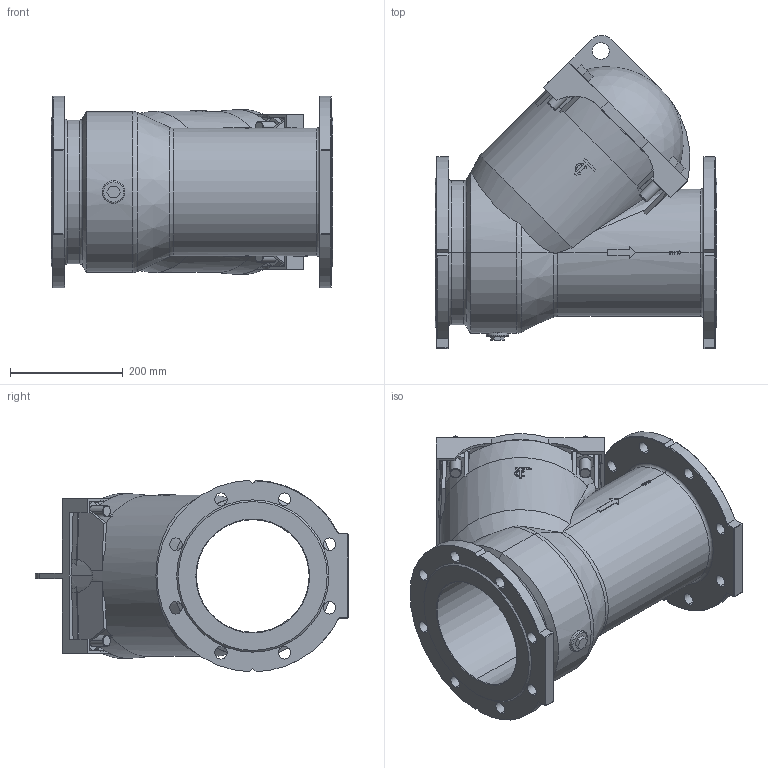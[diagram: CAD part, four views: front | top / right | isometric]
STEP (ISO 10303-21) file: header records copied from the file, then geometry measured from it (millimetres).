
FILE_DESCRIPTION (( 'STEP AP203' ), '1' );
FILE_NAME ('CBL DN200.STEP', '2010-05-12T02:55:44', ( 'farex' ), ( '' ), 'SwSTEP 2.0', 'SolidWorks 2009', '' );
FILE_SCHEMA (( 'CONFIG_CONTROL_DESIGN' ));
Products named in the file (1): CBL DN200
Bounding box: 500 x 555.53 x 339.79 mm (x, y, z)
Volume: 24789571.6 mm3; surface area: 1304773.1 mm2
Topology: 5 solids, 5 shells, 555 faces, 1482 edges, 959 vertices
Faces by surface type: plane 299, cylinder 116, bspline 84, cone 42, torus 12, sphere 2
Entity records: 33798 total; most frequent: CARTESIAN_POINT 20540, ORIENTED_EDGE 2964, DIRECTION 2367, EDGE_CURVE 1482, VERTEX_POINT 959, AXIS2_PLACEMENT_3D 793, VECTOR 781, LINE 781
